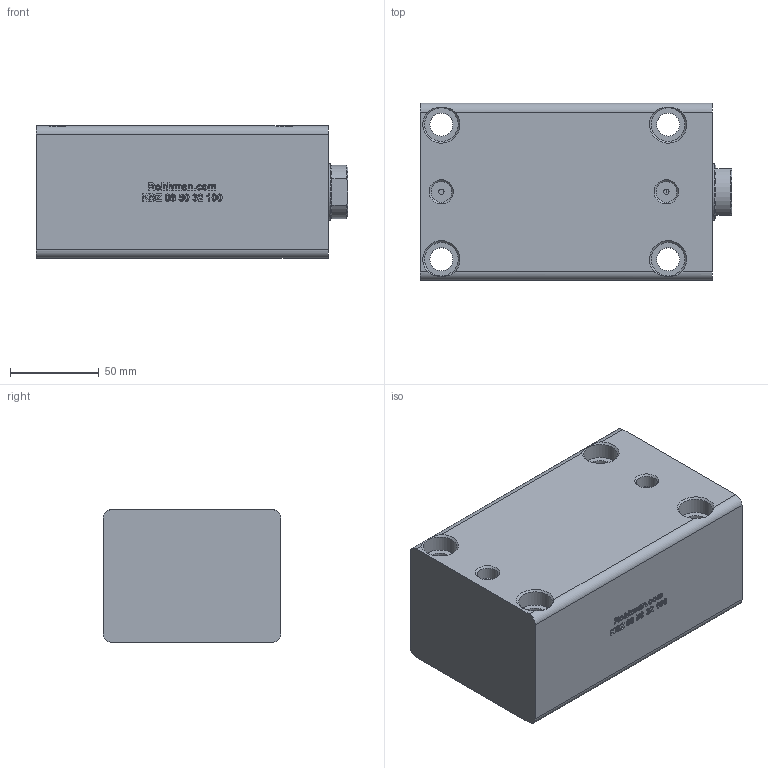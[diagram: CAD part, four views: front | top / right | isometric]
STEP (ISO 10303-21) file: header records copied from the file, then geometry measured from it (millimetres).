
FILE_DESCRIPTION(/* description */ (''),/* implementation_level */ '2;1');
FILE_NAME(/* name */ 'KBZ_08_50_32_100_WEB.step',/* time_stamp */ '2023-09-04T10:49:09+03:00',/* author */ (''),/* organization */ (''),/* preprocessor_version */ 'ST-DEVELOPER v20',/* originating_system */ 'Autodesk Translation Framework v12.9.0.99',/* authorisation */ '');
FILE_SCHEMA (('AUTOMOTIVE_DESIGN { 1 0 10303 214 3 1 1 }'));
Length unit declared in the file: millimetre
Products named in the file (6): KBZ_08_50_32_100_MONTAJ; KAPAK; KAPAK_1; GÖVDE; GÖVDE_1; Ø32 MİL
Assembly tree (5 placements, depth 3):
  KBZ_08_50_32_100_MONTAJ
    KAPAK
      KAPAK_1
    GÖVDE
      GÖVDE_1
    Ø32 MİL
Bounding box: 176 x 100 x 75 mm (x, y, z)
Volume: 1103100.4 mm3; surface area: 117441.4 mm2
Topology: 3 solids, 3 shells, 590 faces, 1615 edges, 1070 vertices
Faces by surface type: bspline 363, plane 181, cylinder 28, cone 18
Full cylindrical faces by diameter (mm): 3 x4, 11.668 x2, 13 x4, 17.519 x1, 19 x4, 32 x1, 32.5 x1, 50 x1, 55 x2, 65 x2
Entity records: 22294 total; most frequent: CARTESIAN_POINT 9607, ORIENTED_EDGE 3230, EDGE_CURVE 1615, DIRECTION 1437, VERTEX_POINT 1070, LINE 789, VECTOR 789, B_SPLINE_CURVE_WITH_KNOTS 737
